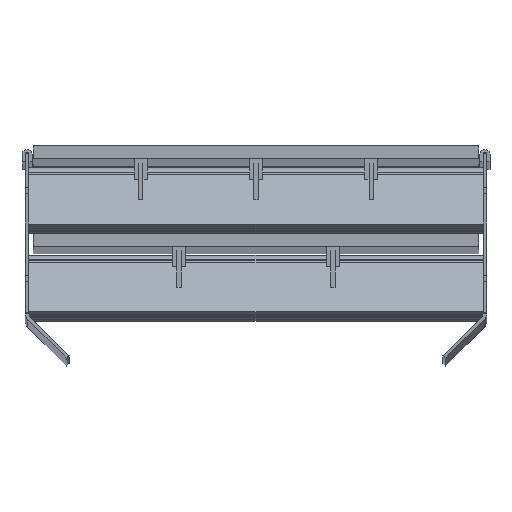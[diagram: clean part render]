
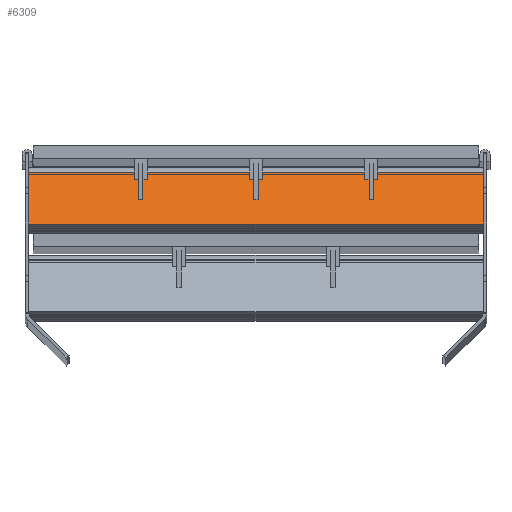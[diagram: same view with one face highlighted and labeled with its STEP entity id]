
A CAD part, top view. The second image highlights one B-rep face of the part: STEP entity #6309.
In plain terms, the highlighted planar face has unit normal (0, 0.5, 0.866).
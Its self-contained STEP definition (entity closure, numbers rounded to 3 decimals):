
#1305 = VERTEX_POINT ( 'NONE', #49005 ) ;
#2707 = PLANE ( 'NONE',  #21916 ) ;
#3695 = VECTOR ( 'NONE', #50654, 1000. ) ;
#6309 = ADVANCED_FACE ( 'NONE', ( #15335 ), #2707, .F. ) ;
#9576 = LINE ( 'NONE', #42974, #3695 ) ;
#12576 = LINE ( 'NONE', #36910, #47628 ) ;
#13118 = CARTESIAN_POINT ( 'NONE',  ( 155.5, -53.584, 2923.962 ) ) ;
#14528 = DIRECTION ( 'NONE',  ( 0., -0.5, -0.866 ) ) ;
#15335 = FACE_OUTER_BOUND ( 'NONE', #20556, .T. ) ;
#15492 = LINE ( 'NONE', #32176, #25306 ) ;
#17986 = LINE ( 'NONE', #13118, #52595 ) ;
#19427 = CARTESIAN_POINT ( 'NONE',  ( 155.5, -53.584, 2923.962 ) ) ;
#19814 = CARTESIAN_POINT ( 'NONE',  ( -155.5, -53.584, 2923.962 ) ) ;
#20556 = EDGE_LOOP ( 'NONE', ( #26725, #25106, #44834, #29252 ) ) ;
#21832 = EDGE_CURVE ( 'NONE', #39666, #1305, #17986, .T. ) ;
#21916 = AXIS2_PLACEMENT_3D ( 'NONE', #19427, #14528, #22467 ) ;
#22467 = DIRECTION ( 'NONE',  ( 0., -0.866, 0.5 ) ) ;
#25106 = ORIENTED_EDGE ( 'NONE', *, *, #33570, .T. ) ;
#25306 = VECTOR ( 'NONE', #40671, 1000. ) ;
#26725 = ORIENTED_EDGE ( 'NONE', *, *, #41053, .T. ) ;
#28155 = EDGE_CURVE ( 'NONE', #1305, #38825, #9576, .T. ) ;
#29252 = ORIENTED_EDGE ( 'NONE', *, *, #21832, .F. ) ;
#32176 = CARTESIAN_POINT ( 'NONE',  ( 155.5, -18.25, 2903.562 ) ) ;
#32420 = VERTEX_POINT ( 'NONE', #42473 ) ;
#33570 = EDGE_CURVE ( 'NONE', #32420, #38825, #12576, .T. ) ;
#36910 = CARTESIAN_POINT ( 'NONE',  ( -155.5, -53.584, 2923.962 ) ) ;
#38825 = VERTEX_POINT ( 'NONE', #19814 ) ;
#39666 = VERTEX_POINT ( 'NONE', #43539 ) ;
#40671 = DIRECTION ( 'NONE',  ( -1., 0., 0. ) ) ;
#41053 = EDGE_CURVE ( 'NONE', #39666, #32420, #15492, .T. ) ;
#42473 = CARTESIAN_POINT ( 'NONE',  ( -155.5, -18.25, 2903.562 ) ) ;
#42974 = CARTESIAN_POINT ( 'NONE',  ( 155.5, -53.584, 2923.962 ) ) ;
#43539 = CARTESIAN_POINT ( 'NONE',  ( 155.5, -18.25, 2903.562 ) ) ;
#44834 = ORIENTED_EDGE ( 'NONE', *, *, #28155, .F. ) ;
#47560 = DIRECTION ( 'NONE',  ( 0., -0.866, 0.5 ) ) ;
#47628 = VECTOR ( 'NONE', #48964, 1000. ) ;
#48964 = DIRECTION ( 'NONE',  ( 0., -0.866, 0.5 ) ) ;
#49005 = CARTESIAN_POINT ( 'NONE',  ( 155.5, -53.584, 2923.962 ) ) ;
#50654 = DIRECTION ( 'NONE',  ( -1., 0., 0. ) ) ;
#52595 = VECTOR ( 'NONE', #47560, 1000. ) ;
